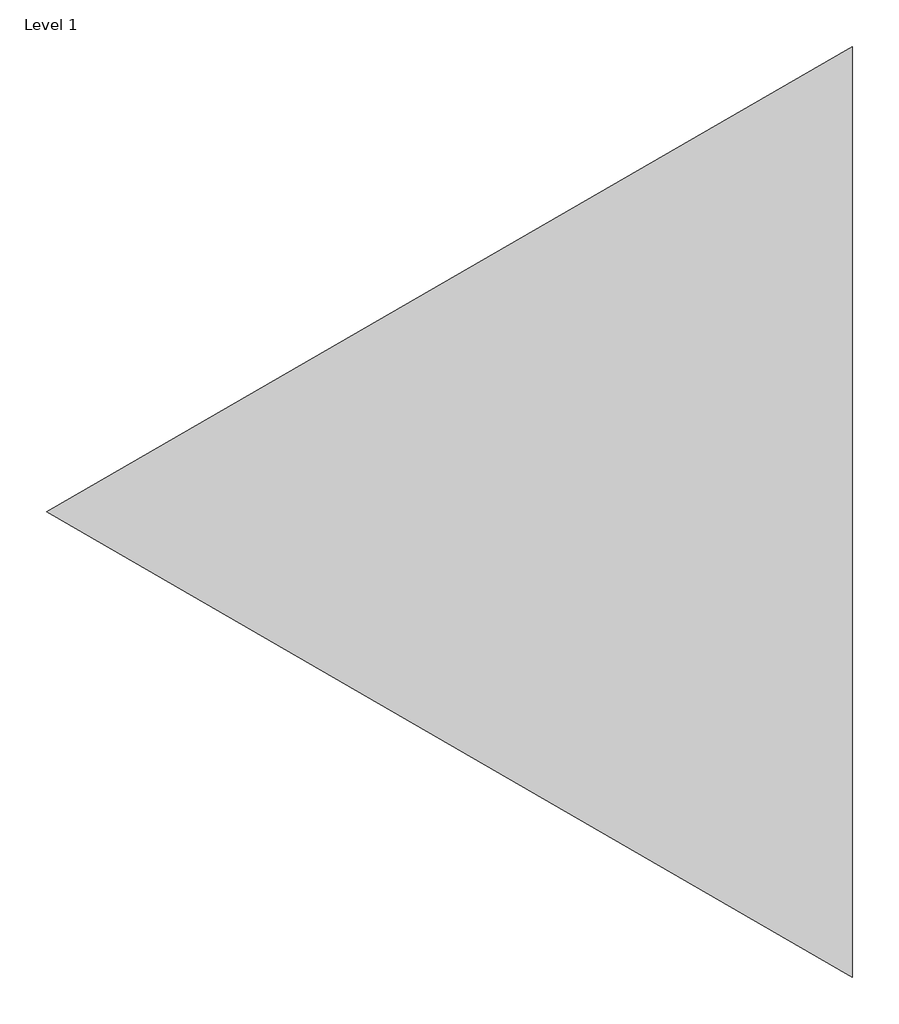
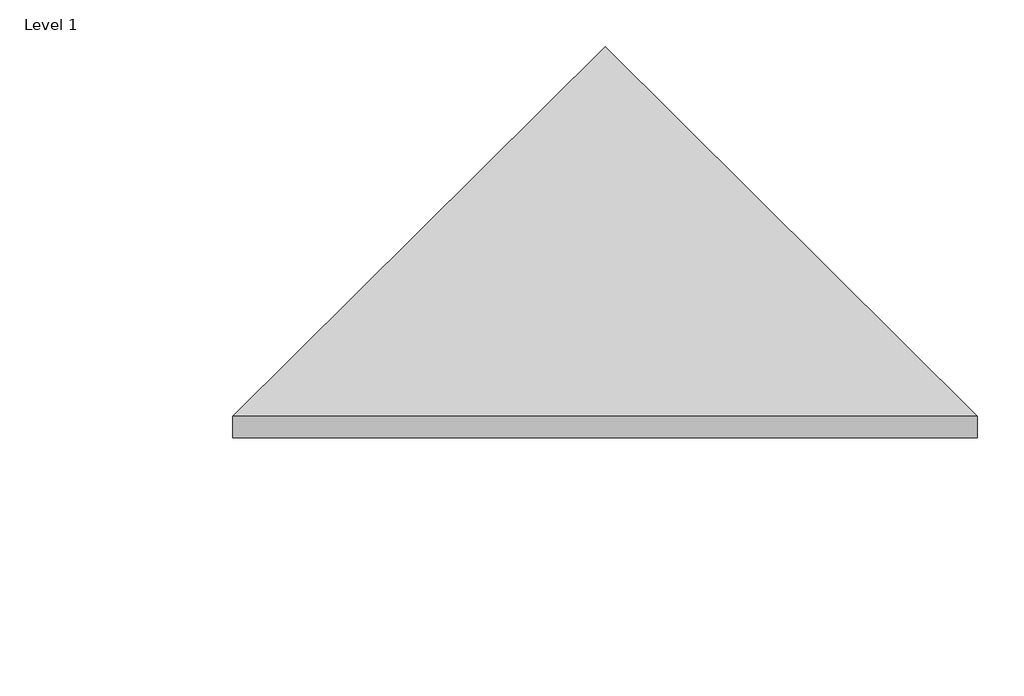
# One storey: 1 proxy.
"""IFC4 building model written with IfcOpenShell, lengths in millimetres."""

import ifcopenshell
import ifcopenshell.guid

model = None  # the IFC model being written
_history = None  # IfcOwnerHistory: only IFC2X3 demands one
_inside = {}  # id of a spatial element -> (the spatial element, [elements in it])
_under = {}  # id of a project, library or spatial element -> (it, [spatial elements below it])
_declared = {}  # id of a project -> (the project, [libraries it declares])
_typed = {}  # id of a type object -> (the type object, [elements of that type])
_made_of = {}  # id of a material, layer set ... -> (it, [elements and type objects made of it])


def new_model(schema):
    """Start an empty IFC model of exactly this schema.

    Asked for "IFC4X3", IfcOpenShell would pick the latest addendum, in which some entities
    have other attributes; the version numbers below select the first issue.
    IFC2X3 requires an IfcOwnerHistory on every rooted entity: one is made here for all.
    """
    global model, _history
    if schema == "IFC4X3":
        model = ifcopenshell.file(schema_version=(4, 3, 0, 0))
    else:
        model = ifcopenshell.file(schema=schema)
    _inside.clear()
    _under.clear()
    _declared.clear()
    _typed.clear()
    _made_of.clear()
    _history = None
    if model.schema == "IFC2X3":
        org = make("IfcOrganization", Name="unknown")
        user = make(
            "IfcPersonAndOrganization",
            ThePerson=make("IfcPerson", FamilyName="unknown"),
            TheOrganization=org,
        )
        app = make(
            "IfcApplication",
            ApplicationDeveloper=org,
            Version="unknown",
            ApplicationFullName="unknown",
            ApplicationIdentifier="unknown",
        )
        _history = make(
            "IfcOwnerHistory",
            OwningUser=user,
            OwningApplication=app,
            ChangeAction="ADDED",
            CreationDate=0,
        )
    return model


def make(cls, **values):
    """One entity of the class cls with the attributes given. An attribute that is None is left unset."""
    return model.create_entity(
        cls, **{name: value for name, value in values.items() if value is not None}
    )


def rooted(cls, **values):
    """An entity with a GlobalId (a new one), such as an element, a storey or a relation."""
    return make(cls, GlobalId=ifcopenshell.guid.new(), OwnerHistory=_history, **values)


def si_unit(unit_type, name, prefix=None):
    """IfcSIUnit, for example si_unit("LENGTHUNIT", "METRE", prefix="MILLI")."""
    return make("IfcSIUnit", UnitType=unit_type, Prefix=prefix, Name=name)


def assignment(units):
    """IfcUnitAssignment: the units of a project."""
    return None if units is None else make("IfcUnitAssignment", Units=units)


def point(xyz):
    """IfcCartesianPoint."""
    return None if xyz is None else make("IfcCartesianPoint", Coordinates=xyz)


def direction(xyz):
    """IfcDirection."""
    return None if xyz is None else make("IfcDirection", DirectionRatios=xyz)


def frame(location, z_axis=None, x_axis=None):
    """IfcAxis2Placement3D, a coordinate frame: its origin and axes. An axis left out is left unset."""
    return make(
        "IfcAxis2Placement3D",
        Location=point(location),
        Axis=direction(z_axis),
        RefDirection=direction(x_axis),
    )


def frame_2d(location, x_axis=None):
    """IfcAxis2Placement2D, a coordinate frame in the plane: its origin and x axis."""
    return make(
        "IfcAxis2Placement2D", Location=point(location), RefDirection=direction(x_axis)
    )


def origin():
    """The frame at (0, 0, 0) with its axes left unset."""
    return frame((0.0, 0.0, 0.0))


def place(relative_to, where):
    """IfcLocalPlacement: puts the frame where relative to a parent placement (None: the world)."""
    return make(
        "IfcLocalPlacement", PlacementRelTo=relative_to, RelativePlacement=where
    )


def context(
    kind, dimensions, precision=None, world=None, true_north=None, identifier=None
):
    """IfcGeometricRepresentationContext, for example the 3D "Model" context."""
    return make(
        "IfcGeometricRepresentationContext",
        ContextIdentifier=identifier,
        ContextType=kind,
        CoordinateSpaceDimension=dimensions,
        Precision=precision,
        WorldCoordinateSystem=world,
        TrueNorth=true_north,
    )


def project(units=None, contexts=None):
    """IfcProject with its units and contexts."""
    return rooted(
        "IfcProject",
        Name="project",
        RepresentationContexts=contexts,
        UnitsInContext=assignment(units),
    )


def spatial(cls, under=None, at=None, **own):
    """A site, building, storey or space (cls), placed at a placement, below another one or the project."""
    s = rooted(cls, ObjectPlacement=at, **own)
    if under is not None:
        _under.setdefault(under.id(), (under, []))[1].append(s)
    return s


def polyline(points):
    """IfcPolyline through the points."""
    return make("IfcPolyline", Points=[point(p) for p in points])


def circle_curve(where, radius):
    """IfcCircle in the frame where."""
    return make("IfcCircle", Position=where, Radius=radius)


def trimmed(basis, trim1, trim2, sense, master):
    """IfcTrimmedCurve: the piece of a basis curve between two trims."""
    return make(
        "IfcTrimmedCurve",
        BasisCurve=basis,
        Trim1=trim1,
        Trim2=trim2,
        SenseAgreement=sense,
        MasterRepresentation=master,
    )


def segment(curve, same_sense, transition):
    """IfcCompositeCurveSegment."""
    return make(
        "IfcCompositeCurveSegment",
        Transition=transition,
        SameSense=same_sense,
        ParentCurve=curve,
    )


def composite_curve(segments, self_intersect=None):
    """IfcCompositeCurve: segments joined end to end."""
    return make("IfcCompositeCurve", Segments=segments, SelfIntersect=self_intersect)


def outline(outer, holes=None, kind="AREA"):
    """IfcArbitraryClosedProfileDef: a profile drawn as a closed curve; with holes, ...WithVoids."""
    if holes is None:
        return make("IfcArbitraryClosedProfileDef", ProfileType=kind, OuterCurve=outer)
    return make(
        "IfcArbitraryProfileDefWithVoids",
        ProfileType=kind,
        OuterCurve=outer,
        InnerCurves=holes,
    )


def extrude(swept, where, along, depth):
    """IfcExtrudedAreaSolid: the profile swept, set in the frame where, extruded along a direction by depth."""
    return make(
        "IfcExtrudedAreaSolid",
        SweptArea=swept,
        Position=where,
        ExtrudedDirection=direction(along),
        Depth=depth,
    )


def shape(context_of_items, identifier, shape_type, items):
    """IfcShapeRepresentation: the items that make up one representation, for example the "Body"."""
    return make(
        "IfcShapeRepresentation",
        ContextOfItems=context_of_items,
        RepresentationIdentifier=identifier,
        RepresentationType=shape_type,
        Items=items,
    )


def source(mapping_origin, context_of_items, identifier, shape_type, items):
    """IfcRepresentationMap: a shape defined once, which mapped items show again and again."""
    return make(
        "IfcRepresentationMap",
        MappingOrigin=mapping_origin,
        MappedRepresentation=shape(context_of_items, identifier, shape_type, items),
    )


def transform(
    local_origin,
    x_axis=None,
    y_axis=None,
    z_axis=None,
    scale=None,
    scale2=None,
    scale3=None,
    uniform=True,
):
    """IfcCartesianTransformationOperator3D, or its non-uniform kind. x_axis, y_axis, z_axis: its Axis1, 2, 3."""
    if uniform:
        return make(
            "IfcCartesianTransformationOperator3D",
            Axis1=direction(x_axis),
            Axis2=direction(y_axis),
            LocalOrigin=point(local_origin),
            Scale=scale,
            Axis3=direction(z_axis),
        )
    return make(
        "IfcCartesianTransformationOperator3DnonUniform",
        Axis1=direction(x_axis),
        Axis2=direction(y_axis),
        LocalOrigin=point(local_origin),
        Scale=scale,
        Axis3=direction(z_axis),
        Scale2=scale2,
        Scale3=scale3,
    )


def mapped(mapping_source, mapping_target):
    """IfcMappedItem: shows the shape of a source again, moved by a transform."""
    return make(
        "IfcMappedItem", MappingSource=mapping_source, MappingTarget=mapping_target
    )


def made_of(thing, what):
    """Note that an element or type object is made of a material, layer set ...; save() writes the relation."""
    if what is not None:
        _made_of.setdefault(what.id(), (what, []))[1].append(thing)
    return thing


def element(
    cls,
    number,
    at=None,
    inside=None,
    cuts=None,
    type_object=None,
    material=None,
    context=None,
    identifier="Body",
    shape_type=None,
    held_by="IfcProductDefinitionShape",
    body=None,
    shapes=None,
    **own,
):
    """One element of the class cls, such as IfcWall. Its Tag is "e" and its number.

    at: its placement. inside: the storey or other place that contains it. cuts: it is an
    opening in that element (IfcRelVoidsElement). A single representation is given by context,
    identifier, shape_type and body (its items); several are given by shapes. held_by: the class
    of the entity that holds the representations. save() writes the other relations.
    """
    e = rooted(cls, Tag="e%d" % number, ObjectPlacement=at, **own)
    if body is not None:
        shapes = [shape(context, identifier, shape_type, body)]
    if shapes is not None:
        e.Representation = make(held_by, Representations=shapes)
    if inside is not None:
        _inside.setdefault(inside.id(), (inside, []))[1].append(e)
    if cuts is not None:
        rooted(
            "IfcRelVoidsElement", RelatingBuildingElement=cuts, RelatedOpeningElement=e
        )
    if type_object is not None:
        _typed.setdefault(type_object.id(), (type_object, []))[1].append(e)
    return made_of(e, material)


def aggregate(whole, parts):
    """IfcRelAggregates: a whole, such as a stair, and the parts it consists of."""
    return rooted("IfcRelAggregates", RelatingObject=whole, RelatedObjects=parts)


def save(model, path):
    """Write the relations noted so far, then the file.

    IfcRelAggregates (storeys below a building ...), IfcRelContainedInSpatialStructure (elements
    in a storey), IfcRelDefinesByType, IfcRelAssociatesMaterial and IfcRelDeclares: one each for
    every whole, place, type object, material and project.
    """
    for whole, parts in _under.values():
        aggregate(whole, parts)
    for where, things in _inside.values():
        rooted(
            "IfcRelContainedInSpatialStructure",
            RelatedElements=things,
            RelatingStructure=where,
        )
    for kind, things in _typed.values():
        rooted("IfcRelDefinesByType", RelatedObjects=things, RelatingType=kind)
    for what, things in _made_of.values():
        rooted("IfcRelAssociatesMaterial", RelatedObjects=things, RelatingMaterial=what)
    for by, libraries in _declared.values():
        rooted("IfcRelDeclares", RelatingContext=by, RelatedDefinitions=libraries)
    model.write(path)


def specialty_equipment_e61d688f(model_context):
    return source(origin(), model_context, "Body", "SweptSolid", [
        extrude(outline(polyline([(580.0, -580.0), (-580.0, -580.0), (0.0, 424.5894684), (580.0, -580.0)])), frame((0.0, 0.0, 50.0), z_axis=(0.0, 0.0, 1.0), x_axis=(1.0, 0.0, 0.0)), (0.0, 0.0, 1.0), 40.0),
        extrude(outline(composite_curve([segment(trimmed(circle_curve(frame_2d((0.0, 209.9476175)), 3.0), [point((-3.0, 209.9476175))], [point((3.0, 209.9476175))], False, "CARTESIAN"), True, "CONTINUOUS"), segment(trimmed(circle_curve(frame_2d((0.0, 209.9476175)), 3.0), [point((3.0, 209.9476175))], [point((-3.0, 209.9476175))], False, "CARTESIAN"), True, "CONTINUOUS")], self_intersect=False)), frame((0.0, 0.0, -1.0), z_axis=(0.0, 0.0, 1.0), x_axis=(1.0, 0.0, 0.0)), (0.0, 0.0, 1.0), 51.0),
        extrude(outline(composite_curve([segment(trimmed(circle_curve(frame_2d((-409.6497358, -510.994197)), 3.0), [point((-412.6497358, -510.994197))], [point((-406.6497358, -510.994197))], False, "CARTESIAN"), True, "CONTINUOUS"), segment(trimmed(circle_curve(frame_2d((-409.6497358, -510.994197)), 3.0), [point((-406.6497358, -510.994197))], [point((-412.6497358, -510.994197))], False, "CARTESIAN"), True, "CONTINUOUS")], self_intersect=False)), frame((0.0, 0.0, -1.0), z_axis=(0.0, 0.0, 1.0), x_axis=(1.0, 0.0, 0.0)), (0.0, 0.0, 1.0), 51.0),
        extrude(outline(composite_curve([segment(trimmed(circle_curve(frame_2d((410.3502642, -510.994197)), 3.0), [point((407.3502642, -510.994197))], [point((413.3502642, -510.994197))], False, "CARTESIAN"), True, "CONTINUOUS"), segment(trimmed(circle_curve(frame_2d((410.3502642, -510.994197)), 3.0), [point((413.3502642, -510.994197))], [point((407.3502642, -510.994197))], False, "CARTESIAN"), True, "CONTINUOUS")], self_intersect=False)), frame((0.0, 0.0, -1.0), z_axis=(0.0, 0.0, 1.0), x_axis=(1.0, 0.0, 0.0)), (0.0, 0.0, 1.0), 51.0),
    ])


model = new_model("IFC4")

# Units and contexts
model_context = context("Model", 3, world=origin())
ifc_project = project(units=[si_unit("LENGTHUNIT", "METRE", prefix="MILLI")], contexts=[model_context])

# Site, building, storey
site = spatial("IfcSite", under=ifc_project)
building = spatial("IfcBuilding", under=site)
storey = spatial("IfcBuildingStorey", under=building, Name="Level 1", Elevation=0.0)

# Proxy
placement = place(None, origin())
specialty_equipment_shape = specialty_equipment_e61d688f(model_context)
element("IfcBuildingElementProxy", 1, Name="Rockfon Triangle 1160 x 1160 : Rockfon Eclipse Traingle Ceiling 1160 x 1160 mm", ObjectType="Rockfon Triangle 1160 x 1160 : Rockfon Eclipse Traingle Ceiling 1160 x 1160 mm", at=placement, inside=storey, context=model_context, shape_type="MappedRepresentation", body=[
    mapped(specialty_equipment_shape, transform((-13792.2269786, 4706.4244005, 207.4), x_axis=(0.0, 1.0, 0.0), y_axis=(-1.0, 0.0, 0.0), z_axis=(0.0, 0.0, 1.0))),
])

save(model, "model.ifc")
